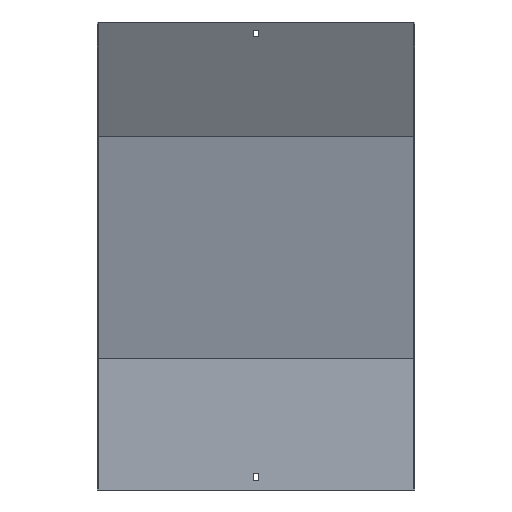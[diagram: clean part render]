
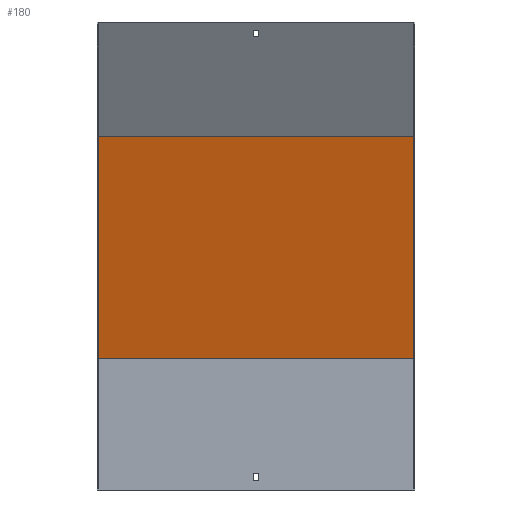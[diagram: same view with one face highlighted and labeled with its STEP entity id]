
A CAD part, front view. The second image highlights one B-rep face of the part: STEP entity #180.
In plain terms, the highlighted planar face has unit normal (0, -0.966, -0.259).
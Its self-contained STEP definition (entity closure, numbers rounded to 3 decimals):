
#32 = FACE_OUTER_BOUND ( 'NONE', #397, .T. ) ;
#39 = EDGE_CURVE ( 'NONE', #807, #726, #817, .T. ) ;
#58 = VECTOR ( 'NONE', #704, 1000. ) ;
#68 = DIRECTION ( 'NONE',  ( 0., -0.966, -0.259 ) ) ;
#93 = CARTESIAN_POINT ( 'NONE',  ( 200., 18.5, 166.436 ) ) ;
#103 = VERTEX_POINT ( 'NONE', #213 ) ;
#122 = ORIENTED_EDGE ( 'NONE', *, *, #612, .F. ) ;
#172 = CARTESIAN_POINT ( 'NONE',  ( 200., -57.301, 449.327 ) ) ;
#175 = VERTEX_POINT ( 'NONE', #93 ) ;
#177 = AXIS2_PLACEMENT_3D ( 'NONE', #559, #68, #265 ) ;
#180 = ADVANCED_FACE ( 'NONE', ( #32 ), #290, .T. ) ;
#199 = DIRECTION ( 'NONE',  ( 0., -0.259, 0.966 ) ) ;
#213 = CARTESIAN_POINT ( 'NONE',  ( -200., 18.5, 166.436 ) ) ;
#228 = CARTESIAN_POINT ( 'NONE',  ( -200., -57.301, 449.327 ) ) ;
#230 = VECTOR ( 'NONE', #255, 1000. ) ;
#236 = CARTESIAN_POINT ( 'NONE',  ( 201.5, 18.5, 166.436 ) ) ;
#238 = CARTESIAN_POINT ( 'NONE',  ( 201.5, -57.301, 449.327 ) ) ;
#255 = DIRECTION ( 'NONE',  ( 0., -0.259, 0.966 ) ) ;
#265 = DIRECTION ( 'NONE',  ( 0., 0.259, -0.966 ) ) ;
#270 = LINE ( 'NONE', #785, #769 ) ;
#290 = PLANE ( 'NONE',  #177 ) ;
#327 = LINE ( 'NONE', #236, #752 ) ;
#385 = DIRECTION ( 'NONE',  ( -1., 0., 0. ) ) ;
#392 = LINE ( 'NONE', #585, #230 ) ;
#397 = EDGE_LOOP ( 'NONE', ( #122, #835, #764, #829 ) ) ;
#398 = EDGE_CURVE ( 'NONE', #175, #103, #327, .T. ) ;
#553 = EDGE_CURVE ( 'NONE', #175, #807, #392, .T. ) ;
#559 = CARTESIAN_POINT ( 'NONE',  ( 201.5, 17.87, 168.788 ) ) ;
#585 = CARTESIAN_POINT ( 'NONE',  ( 200., 58.87, 15.774 ) ) ;
#612 = EDGE_CURVE ( 'NONE', #103, #726, #270, .T. ) ;
#704 = DIRECTION ( 'NONE',  ( -1., 0., 0. ) ) ;
#726 = VERTEX_POINT ( 'NONE', #228 ) ;
#752 = VECTOR ( 'NONE', #385, 1000. ) ;
#764 = ORIENTED_EDGE ( 'NONE', *, *, #553, .T. ) ;
#769 = VECTOR ( 'NONE', #199, 1000. ) ;
#785 = CARTESIAN_POINT ( 'NONE',  ( -200., 58.87, 15.774 ) ) ;
#807 = VERTEX_POINT ( 'NONE', #172 ) ;
#817 = LINE ( 'NONE', #238, #58 ) ;
#829 = ORIENTED_EDGE ( 'NONE', *, *, #39, .T. ) ;
#835 = ORIENTED_EDGE ( 'NONE', *, *, #398, .F. ) ;
